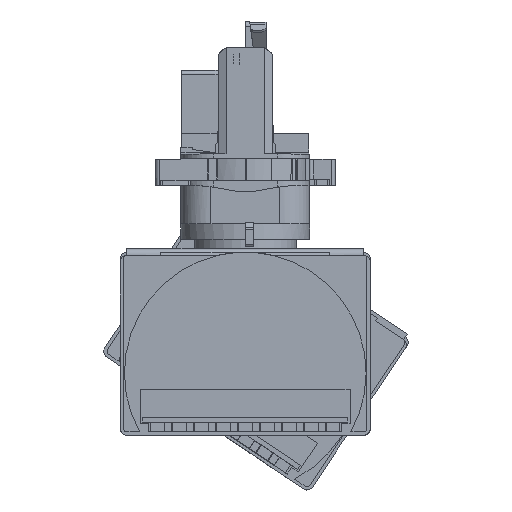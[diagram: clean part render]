
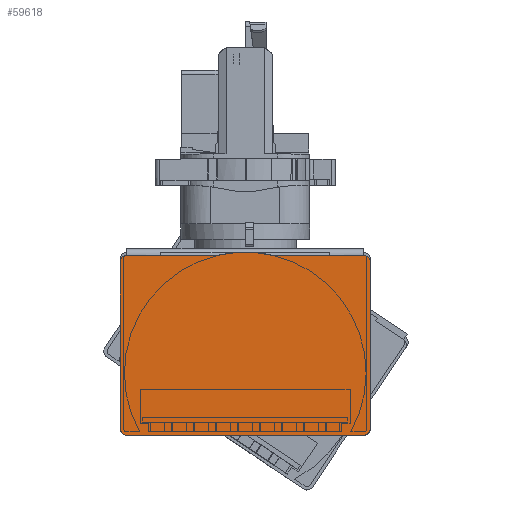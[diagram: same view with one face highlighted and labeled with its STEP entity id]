
A CAD part, left-side view. The second image highlights one B-rep face of the part: STEP entity #59618.
In plain terms, the highlighted planar face has unit normal (-1, 0, 0).
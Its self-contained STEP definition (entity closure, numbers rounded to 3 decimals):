
#1199=LINE('',#83396,#9649);
#1200=LINE('',#83400,#9650);
#1201=LINE('',#83404,#9651);
#1202=LINE('',#83408,#9652);
#1203=LINE('',#83411,#9653);
#9649=VECTOR('',#67854,10.);
#9650=VECTOR('',#67857,10.);
#9651=VECTOR('',#67860,10.);
#9652=VECTOR('',#67863,10.);
#9653=VECTOR('',#67866,10.);
#17627=FACE_OUTER_BOUND('',#20611,.T.);
#20611=EDGE_LOOP('',(#40703,#40704,#40705,#40706,#40707,#40708,#40709,#40710,
#40711,#40712));
#23375=CIRCLE('',#62874,30.);
#23376=CIRCLE('',#62875,1.6);
#23377=CIRCLE('',#62876,1.6);
#23378=CIRCLE('',#62877,1.6);
#23379=CIRCLE('',#62878,1.6);
#24369=VERTEX_POINT('',#83392);
#24370=VERTEX_POINT('',#83393);
#24371=VERTEX_POINT('',#83395);
#24372=VERTEX_POINT('',#83397);
#24373=VERTEX_POINT('',#83399);
#24374=VERTEX_POINT('',#83401);
#24375=VERTEX_POINT('',#83403);
#24376=VERTEX_POINT('',#83405);
#24377=VERTEX_POINT('',#83407);
#24378=VERTEX_POINT('',#83409);
#30641=EDGE_CURVE('',#24369,#24370,#23375,.T.);
#30642=EDGE_CURVE('',#24371,#24369,#1199,.T.);
#30643=EDGE_CURVE('',#24372,#24371,#23376,.T.);
#30644=EDGE_CURVE('',#24373,#24372,#1200,.T.);
#30645=EDGE_CURVE('',#24374,#24373,#23377,.T.);
#30646=EDGE_CURVE('',#24375,#24374,#1201,.T.);
#30647=EDGE_CURVE('',#24376,#24375,#23378,.T.);
#30648=EDGE_CURVE('',#24376,#24377,#1202,.T.);
#30649=EDGE_CURVE('',#24378,#24377,#23379,.T.);
#30650=EDGE_CURVE('',#24370,#24378,#1203,.T.);
#40703=ORIENTED_EDGE('',*,*,#30641,.F.);
#40704=ORIENTED_EDGE('',*,*,#30642,.F.);
#40705=ORIENTED_EDGE('',*,*,#30643,.F.);
#40706=ORIENTED_EDGE('',*,*,#30644,.F.);
#40707=ORIENTED_EDGE('',*,*,#30645,.F.);
#40708=ORIENTED_EDGE('',*,*,#30646,.F.);
#40709=ORIENTED_EDGE('',*,*,#30647,.F.);
#40710=ORIENTED_EDGE('',*,*,#30648,.T.);
#40711=ORIENTED_EDGE('',*,*,#30649,.F.);
#40712=ORIENTED_EDGE('',*,*,#30650,.F.);
#56706=PLANE('',#62873);
#59618=ADVANCED_FACE('',(#17627),#56706,.T.);
#62873=AXIS2_PLACEMENT_3D('',#83391,#67850,#67851);
#62874=AXIS2_PLACEMENT_3D('',#83394,#67852,#67853);
#62875=AXIS2_PLACEMENT_3D('',#83398,#67855,#67856);
#62876=AXIS2_PLACEMENT_3D('',#83402,#67858,#67859);
#62877=AXIS2_PLACEMENT_3D('',#83406,#67861,#67862);
#62878=AXIS2_PLACEMENT_3D('',#83410,#67864,#67865);
#67850=DIRECTION('center_axis',(-1.,0.,0.));
#67851=DIRECTION('ref_axis',(0.,1.,0.));
#67852=DIRECTION('center_axis',(1.,0.,0.));
#67853=DIRECTION('ref_axis',(0.,-0.873,0.487));
#67854=DIRECTION('',(0.,-1.,0.));
#67855=DIRECTION('center_axis',(1.,0.,0.));
#67856=DIRECTION('ref_axis',(0.,0.707,0.707));
#67857=DIRECTION('',(0.,0.,1.));
#67858=DIRECTION('center_axis',(1.,0.,0.));
#67859=DIRECTION('ref_axis',(0.,0.707,-0.707));
#67860=DIRECTION('',(0.,1.,0.));
#67861=DIRECTION('center_axis',(1.,0.,0.));
#67862=DIRECTION('ref_axis',(0.,-0.707,-0.707));
#67863=DIRECTION('',(0.,0.,1.));
#67864=DIRECTION('center_axis',(1.,0.,0.));
#67865=DIRECTION('ref_axis',(0.,-0.707,0.707));
#67866=DIRECTION('',(0.,-1.,0.));
#83391=CARTESIAN_POINT('Origin',(-318.,0.,
105.202));
#83392=CARTESIAN_POINT('',(-318.,6.882,44.62));
#83393=CARTESIAN_POINT('',(-318.,-6.882,44.62));
#83394=CARTESIAN_POINT('Origin',(-318.,0.,15.42));
#83395=CARTESIAN_POINT('',(-318.,29.4,44.62));
#83396=CARTESIAN_POINT('',(-318.,0.,44.62));
#83397=CARTESIAN_POINT('',(-318.,31.,43.02));
#83398=CARTESIAN_POINT('Origin',(-318.,29.4,43.02));
#83399=CARTESIAN_POINT('',(-318.,31.,1.6));
#83400=CARTESIAN_POINT('',(-318.,31.,0.));
#83401=CARTESIAN_POINT('',(-318.,29.4,0.));
#83402=CARTESIAN_POINT('Origin',(-318.,29.4,1.6));
#83403=CARTESIAN_POINT('',(-318.,-29.4,0.));
#83404=CARTESIAN_POINT('',(-318.,-31.,0.));
#83405=CARTESIAN_POINT('',(-318.,-31.,1.6));
#83406=CARTESIAN_POINT('Origin',(-318.,-29.4,1.6));
#83407=CARTESIAN_POINT('',(-318.,-31.,43.02));
#83408=CARTESIAN_POINT('',(-318.,-31.,0.));
#83409=CARTESIAN_POINT('',(-318.,-29.4,44.62));
#83410=CARTESIAN_POINT('Origin',(-318.,-29.4,43.02));
#83411=CARTESIAN_POINT('',(-318.,0.,44.62));
